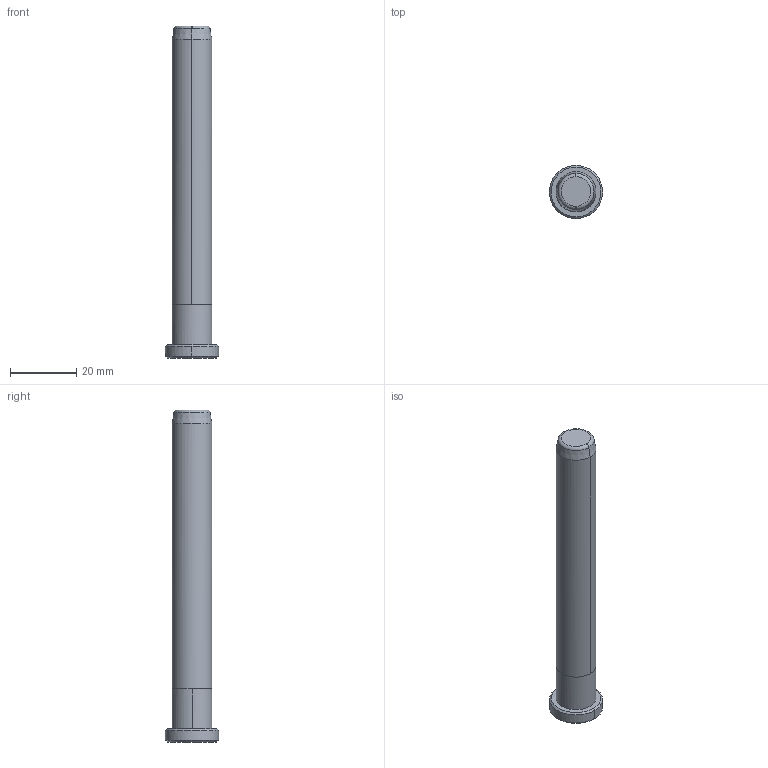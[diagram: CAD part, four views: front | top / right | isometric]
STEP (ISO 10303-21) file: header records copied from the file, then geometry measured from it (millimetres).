
FILE_DESCRIPTION(('CATIA V5 STEP Exchange'),'2;1');
FILE_NAME('C:\Users\Raffaele\Desktop\3D BOLEX\3D FILES CF BOLEX\12-PILLAR REF 858\B85812100.stp','2019-06-20T12:47:09+00:00',('none'),('none'),'CATIA Version 5 Release 20 GA (IN-10)','CATIA V5 STEP AP203','none');
FILE_SCHEMA(('CONFIG_CONTROL_DESIGN'));
Length unit declared in the file: millimetre
Products named in the file (1): B85812100
Bounding box: 16 x 16 x 100 mm (x, y, z)
Volume: 11598.2 mm3; surface area: 4151.5 mm2
Topology: 1 solids, 1 shells, 20 faces, 40 edges, 24 vertices
Faces by surface type: cone 6, cylinder 6, plane 4, torus 4
Entity records: 671 total; most frequent: CARTESIAN_POINT 232, ORIENTED_EDGE 80, DIRECTION 71, AXIS2_PLACEMENT_3D 40, EDGE_CURVE 40, VERTEX_POINT 24, EDGE_LOOP 22, ADVANCED_FACE 20
